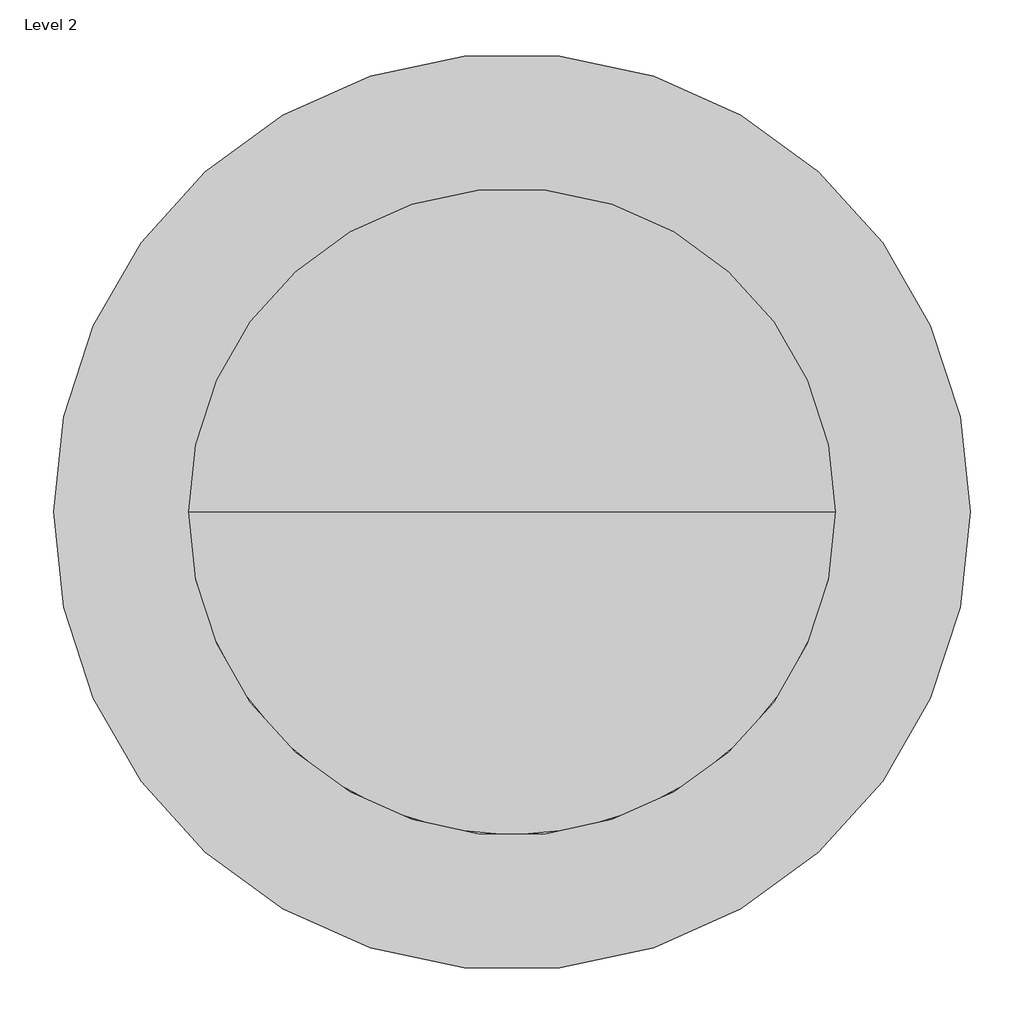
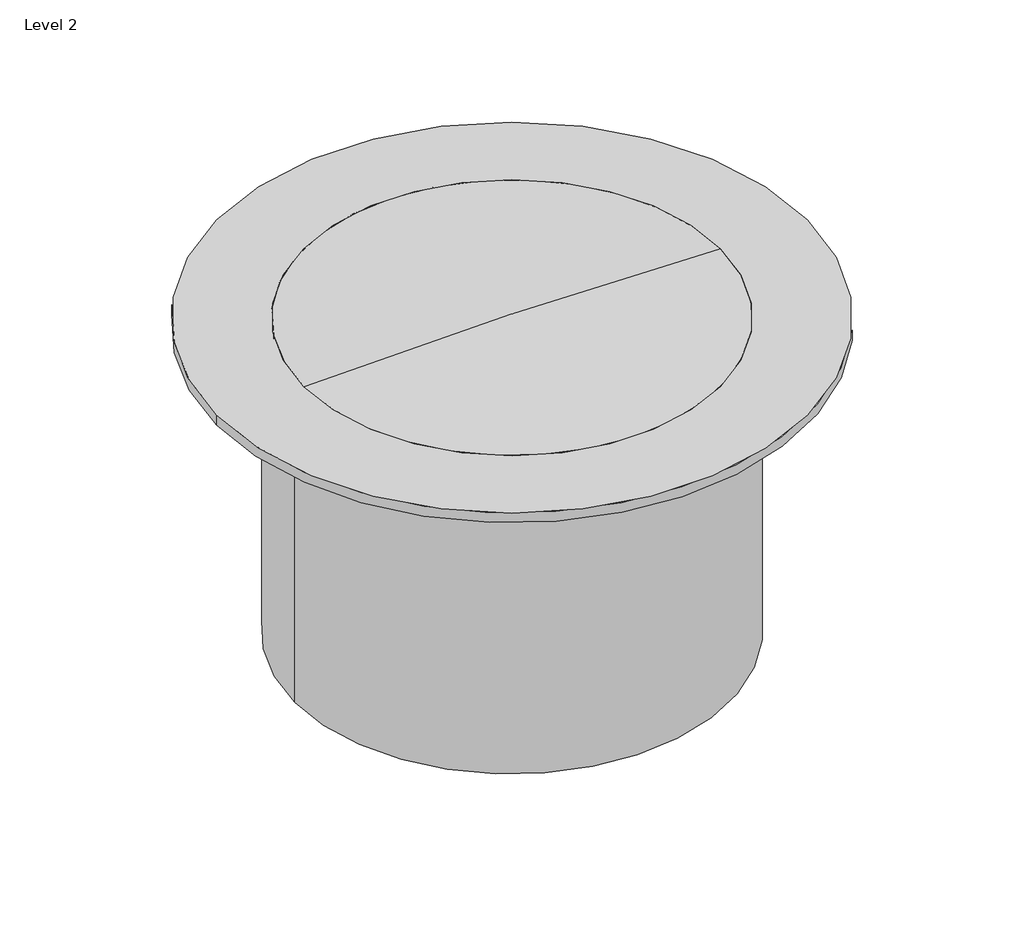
# One storey: 1 proxy.
"""IFC4 building model written with IfcOpenShell, lengths in millimetres."""

from ifc_helpers import new_model, si_unit, origin, place, context, project, spatial, transform, mapped, element, save
from components import specialty_equipment_5184973a

model = new_model("IFC4")

# Units and contexts
model_context = context("Model", 3, world=origin())
ifc_project = project(units=[si_unit("LENGTHUNIT", "METRE", prefix="MILLI")], contexts=[model_context])

# Site, building, storey
site = spatial("IfcSite", under=ifc_project)
building = spatial("IfcBuilding", under=site)
storey = spatial("IfcBuildingStorey", under=building, Name="Level 2", Elevation=2200.0)

# Proxy
placement = place(None, origin())
specialty_equipment_shape = specialty_equipment_5184973a(model_context)
element("IfcBuildingElementProxy", 1, Name="GRAF Tele Dome 600 Maxi : 600 Maxi", ObjectType="GRAF Tele Dome 600 Maxi : 600 Maxi", at=placement, inside=storey, context=model_context, shape_type="MappedRepresentation", body=[
    mapped(specialty_equipment_shape, transform((5829.8797995, 5449.0232018, 2500.0), x_axis=(1.0, 0.0, 0.0), y_axis=(0.0, 1.0, 0.0), z_axis=(0.0, 0.0, 1.0))),
])

save(model, "model.ifc")
